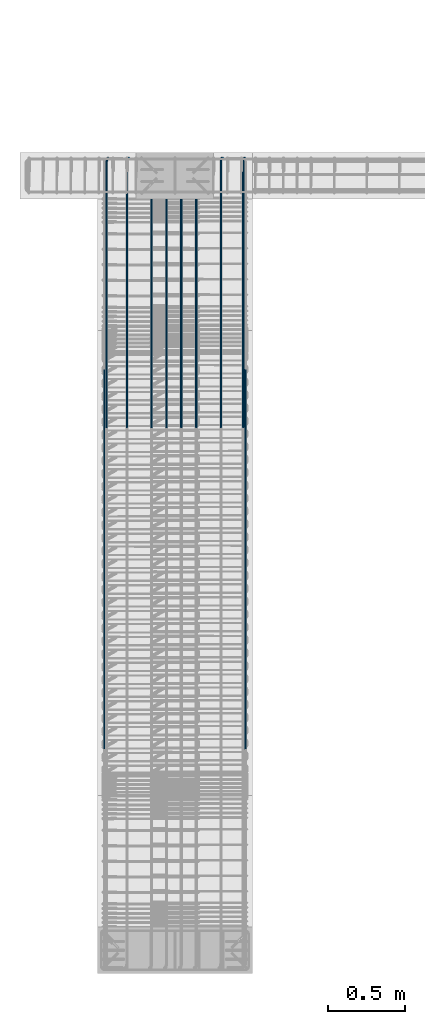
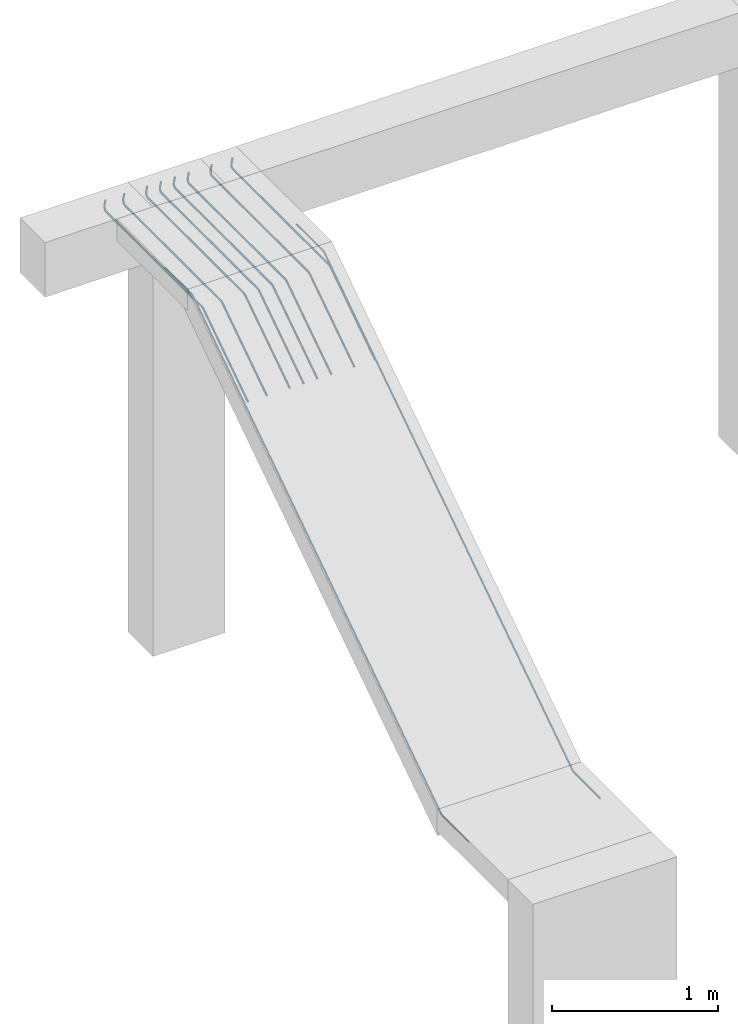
# One storey, part 4 of 24: 2 reinforcing bars.
"""IFC2X3 building model written with IfcOpenShell, lengths in metres."""

from ifc_helpers import new_model, entity, si_unit, direction, frame, origin, place, context, subcontext, project, spatial, shape, source, transform, mapped, element, save


model = new_model("IFC2X3")

# Units and contexts
model_context = context("Model", 3, precision=0.0, world=origin(), true_north=direction((0.0, 1.0)))
plan_context = context("Plan", 3, precision=0.0, world=origin(), true_north=direction((0.0, 1.0)))
body_context = subcontext(model_context, "Body", "Model", "MODEL_VIEW", scale=1.0)
ifc_project = project(units=[si_unit("LENGTHUNIT", "METRE"), si_unit("AREAUNIT", "SQUARE_METRE"), si_unit("VOLUMEUNIT", "CUBIC_METRE"), si_unit("PLANEANGLEUNIT", "RADIAN"), si_unit("THERMODYNAMICTEMPERATUREUNIT", "DEGREE_CELSIUS"), si_unit("FORCEUNIT", "NEWTON"), si_unit("MASSUNIT", "GRAM", prefix="KILO")], contexts=[model_context, plan_context])

# Site, building, storey
placement = place(None, origin())
site = spatial("IfcSite", under=ifc_project, at=placement, Name="Default Site", CompositionType="ELEMENT")
building = spatial("IfcBuilding", under=site, at=placement, Name="Default Building", CompositionType="ELEMENT")
storey_placement = place(placement, frame((0.0, 0.0, 3.3), z_axis=(1.0, 0.0, 0.0), x_axis=(0.0, 0.0, 1.0)))
storey = spatial("IfcBuildingStorey", under=building, at=storey_placement, Name="Piano 2", CompositionType="ELEMENT", Elevation=3.3)

# Reinforcing bars
shared_shape_1 = source(origin(), body_context, None, "AdvancedSweptSolid", [
    entity("IfcSweptDiskSolid", entity("IfcCompositeCurve", [entity("IfcCompositeCurveSegment", "CONTINUOUS", True, entity("IfcPolyline", [entity("IfcCartesianPoint", [0.0, 0.0, 0.0]), entity("IfcCartesianPoint", [0.0, 0.537625, 0.358417]), entity("IfcCartesianPoint", [0.0, 0.553156, 0.363119]), entity("IfcCartesianPoint", [0.0, 0.660056, 0.363119]), entity("IfcCartesianPoint", [0.0, 1.709237, 0.363119]), entity("IfcCartesianPoint", [0.000736, 1.723237, 0.366798]), entity("IfcCartesianPoint", [0.002746, 1.733486, 0.376847]), entity("IfcCartesianPoint", [0.005491, 1.737237, 0.390575]), entity("IfcCartesianPoint", [0.0128, 1.737237, 0.427119])]))], False), 0.007, 0.0, 0.0),
])
shared_shape_2 = source(origin(), body_context, None, "MappedRepresentation", [mapped(shared_shape_1, transform((-3.559, 3.374763, 2.828881)))])
shared_shape_3 = source(origin(), body_context, None, "AdvancedSweptSolid", [
    entity("IfcSweptDiskSolid", entity("IfcCompositeCurve", [entity("IfcCompositeCurveSegment", "CONTINUOUS", True, entity("IfcPolyline", [entity("IfcCartesianPoint", [0.0, 0.0, 0.0]), entity("IfcCartesianPoint", [0.0, 0.537625, 0.358417]), entity("IfcCartesianPoint", [0.0, 0.553156, 0.363119]), entity("IfcCartesianPoint", [0.0, 0.660056, 0.363119]), entity("IfcCartesianPoint", [0.0, 1.709237, 0.363119]), entity("IfcCartesianPoint", [0.000736, 1.723237, 0.366798]), entity("IfcCartesianPoint", [0.002746, 1.733486, 0.376847]), entity("IfcCartesianPoint", [0.005491, 1.737237, 0.390575]), entity("IfcCartesianPoint", [0.0128, 1.737237, 0.427119])]))], False), 0.007, 0.0, 0.0),
])
shared_shape_4 = source(origin(), body_context, None, "MappedRepresentation", [
    mapped(shared_shape_3, transform((-3.703667, 3.374763, 2.828881))),
])
shared_shape_5 = source(origin(), body_context, None, "AdvancedSweptSolid", [
    entity("IfcSweptDiskSolid", entity("IfcCompositeCurve", [entity("IfcCompositeCurveSegment", "CONTINUOUS", True, entity("IfcPolyline", [entity("IfcCartesianPoint", [0.0, 0.0, 0.0]), entity("IfcCartesianPoint", [0.0, 0.537625, 0.358417]), entity("IfcCartesianPoint", [0.0, 0.553156, 0.363119]), entity("IfcCartesianPoint", [0.0, 0.660056, 0.363119]), entity("IfcCartesianPoint", [0.0, 1.709237, 0.363119]), entity("IfcCartesianPoint", [0.000736, 1.723237, 0.366798]), entity("IfcCartesianPoint", [0.002746, 1.733486, 0.376847]), entity("IfcCartesianPoint", [0.005491, 1.737237, 0.390575]), entity("IfcCartesianPoint", [0.0128, 1.737237, 0.427119])]))], False), 0.007, 0.0, 0.0),
])
shared_shape_6 = source(origin(), body_context, None, "MappedRepresentation", [
    mapped(shared_shape_5, transform((-3.862667, 3.374763, 2.828881))),
])
shared_shape_7 = source(origin(), body_context, None, "AdvancedSweptSolid", [
    entity("IfcSweptDiskSolid", entity("IfcCompositeCurve", [entity("IfcCompositeCurveSegment", "CONTINUOUS", True, entity("IfcPolyline", [entity("IfcCartesianPoint", [0.0, 0.0, 0.0]), entity("IfcCartesianPoint", [0.0, 0.537625, 0.358417]), entity("IfcCartesianPoint", [0.0, 0.553156, 0.363119]), entity("IfcCartesianPoint", [0.0, 0.660056, 0.363119]), entity("IfcCartesianPoint", [0.0, 1.709237, 0.363119]), entity("IfcCartesianPoint", [0.000736, 1.723237, 0.366798]), entity("IfcCartesianPoint", [0.002746, 1.733486, 0.376847]), entity("IfcCartesianPoint", [0.005491, 1.737237, 0.390575]), entity("IfcCartesianPoint", [0.0128, 1.737237, 0.427119])]))], False), 0.007, 0.0, 0.0),
])
shared_shape_8 = source(origin(), body_context, None, "MappedRepresentation", [
    mapped(shared_shape_7, transform((-3.958889, 3.374763, 2.828881))),
])
shared_shape_9 = source(origin(), body_context, None, "AdvancedSweptSolid", [
    entity("IfcSweptDiskSolid", entity("IfcCompositeCurve", [entity("IfcCompositeCurveSegment", "CONTINUOUS", True, entity("IfcPolyline", [entity("IfcCartesianPoint", [0.0, 0.0, 0.0]), entity("IfcCartesianPoint", [0.0, 0.537625, 0.358417]), entity("IfcCartesianPoint", [0.0, 0.553156, 0.363119]), entity("IfcCartesianPoint", [0.0, 0.660056, 0.363119]), entity("IfcCartesianPoint", [0.0, 1.709237, 0.363119]), entity("IfcCartesianPoint", [0.000736, 1.723237, 0.366798]), entity("IfcCartesianPoint", [0.002746, 1.733486, 0.376847]), entity("IfcCartesianPoint", [0.005491, 1.737237, 0.390575]), entity("IfcCartesianPoint", [0.0128, 1.737237, 0.427119])]))], False), 0.007, 0.0, 0.0),
])
shared_shape_10 = source(origin(), body_context, None, "MappedRepresentation", [
    mapped(shared_shape_9, transform((-4.055111, 3.374763, 2.828881))),
])
shared_shape_11 = source(origin(), body_context, None, "AdvancedSweptSolid", [
    entity("IfcSweptDiskSolid", entity("IfcCompositeCurve", [entity("IfcCompositeCurveSegment", "CONTINUOUS", True, entity("IfcPolyline", [entity("IfcCartesianPoint", [0.0, 0.0, 0.0]), entity("IfcCartesianPoint", [0.0, 0.537625, 0.358417]), entity("IfcCartesianPoint", [0.0, 0.553156, 0.363119]), entity("IfcCartesianPoint", [0.0, 0.660056, 0.363119]), entity("IfcCartesianPoint", [0.0, 1.709237, 0.363119]), entity("IfcCartesianPoint", [0.000736, 1.723237, 0.366798]), entity("IfcCartesianPoint", [0.002746, 1.733486, 0.376847]), entity("IfcCartesianPoint", [0.005491, 1.737237, 0.390575]), entity("IfcCartesianPoint", [0.0128, 1.737237, 0.427119])]))], False), 0.007, 0.0, 0.0),
])
shared_shape_12 = source(origin(), body_context, None, "MappedRepresentation", [
    mapped(shared_shape_11, transform((-4.151333, 3.374763, 2.828881))),
])
shared_shape_13 = source(origin(), body_context, None, "AdvancedSweptSolid", [
    entity("IfcSweptDiskSolid", entity("IfcCompositeCurve", [entity("IfcCompositeCurveSegment", "CONTINUOUS", True, entity("IfcPolyline", [entity("IfcCartesianPoint", [0.0, 0.0, 0.0]), entity("IfcCartesianPoint", [0.0, 0.537625, 0.358417]), entity("IfcCartesianPoint", [0.0, 0.553156, 0.363119]), entity("IfcCartesianPoint", [0.0, 0.660056, 0.363119]), entity("IfcCartesianPoint", [0.0, 1.709237, 0.363119]), entity("IfcCartesianPoint", [0.000736, 1.723237, 0.366798]), entity("IfcCartesianPoint", [0.002746, 1.733486, 0.376847]), entity("IfcCartesianPoint", [0.005491, 1.737237, 0.390575]), entity("IfcCartesianPoint", [0.0128, 1.737237, 0.427119])]))], False), 0.007, 0.0, 0.0),
])
shared_shape_14 = source(origin(), body_context, None, "MappedRepresentation", [
    mapped(shared_shape_13, transform((-4.310333, 3.374763, 2.828881))),
])
shared_shape_15 = source(origin(), body_context, None, "AdvancedSweptSolid", [
    entity("IfcSweptDiskSolid", entity("IfcCompositeCurve", [entity("IfcCompositeCurveSegment", "CONTINUOUS", True, entity("IfcPolyline", [entity("IfcCartesianPoint", [0.0, 0.0, 0.0]), entity("IfcCartesianPoint", [0.0, 0.537625, 0.358417]), entity("IfcCartesianPoint", [0.0, 0.553156, 0.363119]), entity("IfcCartesianPoint", [0.0, 0.660056, 0.363119]), entity("IfcCartesianPoint", [0.0, 1.709237, 0.363119]), entity("IfcCartesianPoint", [0.000736, 1.723237, 0.366798]), entity("IfcCartesianPoint", [0.002746, 1.733486, 0.376847]), entity("IfcCartesianPoint", [0.005491, 1.737237, 0.390575]), entity("IfcCartesianPoint", [0.0128, 1.737237, 0.427119])]))], False), 0.007, 0.0, 0.0),
])
shared_shape_16 = source(origin(), body_context, None, "MappedRepresentation", [mapped(shared_shape_15, transform((-4.441, 3.374763, 2.828881)))])
element("IfcReinforcingBar", 1, at=placement, inside=storey, Name="Arm Inferiore; Trave:3 [Piano:2]", BarLength=15.28634, BarRole="MAIN", BarSurface="TEXTURED", NominalDiameter=0.014, shapes=[
    shape(body_context, None, "MappedRepresentation", [mapped(shared_shape_2, transform((0.0, 0.0, 0.0))), mapped(shared_shape_4, transform((0.0, 0.0, 0.0))), mapped(shared_shape_6, transform((0.0, 0.0, 0.0))), mapped(shared_shape_8, transform((0.0, 0.0, 0.0))), mapped(shared_shape_10, transform((0.0, 0.0, 0.0))), mapped(shared_shape_12, transform((0.0, 0.0, 0.0))), mapped(shared_shape_14, transform((0.0, 0.0, 0.0))), mapped(shared_shape_16, transform((0.0, 0.0, 0.0)))]),
])
shared_shape_17 = source(origin(), body_context, None, "AdvancedSweptSolid", [
    entity("IfcSweptDiskSolid", entity("IfcCompositeCurve", [entity("IfcCompositeCurveSegment", "CONTINUOUS", True, entity("IfcPolyline", [entity("IfcCartesianPoint", [0.0, 0.0, 0.0]), entity("IfcCartesianPoint", [0.0, 0.319642, 0.0]), entity("IfcCartesianPoint", [0.0, 0.332955, 0.004031]), entity("IfcCartesianPoint", [0.0, 3.320863, 1.995969]), entity("IfcCartesianPoint", [0.0, 3.334175, 2.0]), entity("IfcCartesianPoint", [0.0, 3.653818, 2.0])]))], False), 0.006, 0.0, 0.0),
])
shared_shape_18 = source(origin(), body_context, None, "MappedRepresentation", [mapped(shared_shape_17, transform((-4.456, 0.69343, 1.231824)))])
shared_shape_19 = source(origin(), body_context, None, "AdvancedSweptSolid", [
    entity("IfcSweptDiskSolid", entity("IfcCompositeCurve", [entity("IfcCompositeCurveSegment", "CONTINUOUS", True, entity("IfcPolyline", [entity("IfcCartesianPoint", [0.0, 0.0, 0.0]), entity("IfcCartesianPoint", [0.0, 0.319642, 0.0]), entity("IfcCartesianPoint", [0.0, 0.332955, 0.004031]), entity("IfcCartesianPoint", [0.0, 3.320863, 1.995969]), entity("IfcCartesianPoint", [0.0, 3.334175, 2.0]), entity("IfcCartesianPoint", [0.0, 3.653818, 2.0])]))], False), 0.006, 0.0, 0.0),
])
shared_shape_20 = source(origin(), body_context, None, "MappedRepresentation", [mapped(shared_shape_19, transform((-3.544, 0.69343, 1.231824)))])
element("IfcReinforcingBar", 2, at=placement, inside=storey, Name="Arm Generica; Trave:2 [Piano:2]", BarLength=8.517491, BarRole="NOTDEFINED", BarSurface="TEXTURED", NominalDiameter=0.012, shapes=[
    shape(body_context, None, "MappedRepresentation", [mapped(shared_shape_18, transform((0.0, 0.0, 0.0))), mapped(shared_shape_20, transform((0.0, 0.0, 0.0)))]),
])

save(model, "model.ifc")
